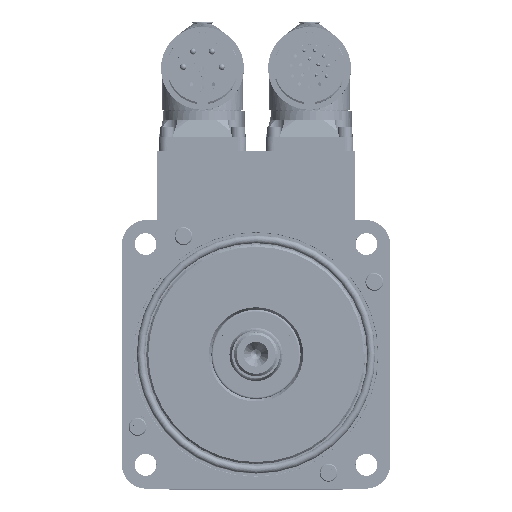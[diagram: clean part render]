
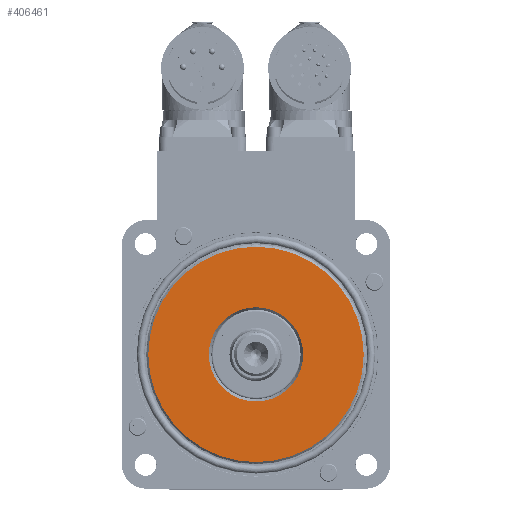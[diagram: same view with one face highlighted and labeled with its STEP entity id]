
A CAD part, top view. The second image highlights one B-rep face of the part: STEP entity #406461.
In plain terms, the highlighted planar face has unit normal (0, 0, 1).
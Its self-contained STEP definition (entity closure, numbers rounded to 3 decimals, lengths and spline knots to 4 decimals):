
#12183 = EDGE_CURVE ( 'NONE', #210011, #492784, #236898, .T. ) ;
#14590 = CIRCLE ( 'NONE', #430425, 0.5943 ) ;
#32473 = CARTESIAN_POINT ( 'NONE',  ( 0., 0., -1.0639 ) ) ;
#44104 = DIRECTION ( 'NONE',  ( 0., 0., 1. ) ) ;
#47099 = EDGE_LOOP ( 'NONE', ( #104765, #143902 ) ) ;
#69857 = VERTEX_POINT ( 'NONE', #259356 ) ;
#85226 = CARTESIAN_POINT ( 'NONE',  ( -1.358, 0., -1.0639 ) ) ;
#104765 = ORIENTED_EDGE ( 'NONE', *, *, #347284, .T. ) ;
#120556 = CARTESIAN_POINT ( 'NONE',  ( -0.5943, 0., -1.0639 ) ) ;
#136250 = AXIS2_PLACEMENT_3D ( 'NONE', #529849, #44104, #283002 ) ;
#143902 = ORIENTED_EDGE ( 'NONE', *, *, #335199, .T. ) ;
#158218 = PLANE ( 'NONE',  #136250 ) ;
#176452 = AXIS2_PLACEMENT_3D ( 'NONE', #444415, #357657, #238281 ) ;
#197933 = DIRECTION ( 'NONE',  ( 0., 0., -1. ) ) ;
#210011 = VERTEX_POINT ( 'NONE', #85226 ) ;
#223500 = EDGE_LOOP ( 'NONE', ( #500280, #357141 ) ) ;
#236898 = CIRCLE ( 'NONE', #176452, 1.358 ) ;
#238281 = DIRECTION ( 'NONE',  ( -1., 0., 0. ) ) ;
#251369 = AXIS2_PLACEMENT_3D ( 'NONE', #32473, #197933, #322628 ) ;
#259356 = CARTESIAN_POINT ( 'NONE',  ( 0.5943, 0., -1.0639 ) ) ;
#283002 = DIRECTION ( 'NONE',  ( 1., 0., 0. ) ) ;
#289127 = VERTEX_POINT ( 'NONE', #120556 ) ;
#313394 = CARTESIAN_POINT ( 'NONE',  ( 0., 0., -1.0639 ) ) ;
#318440 = AXIS2_PLACEMENT_3D ( 'NONE', #313394, #481583, #324076 ) ;
#322628 = DIRECTION ( 'NONE',  ( -1., 0., 0. ) ) ;
#324076 = DIRECTION ( 'NONE',  ( -1., 0., 0. ) ) ;
#335199 = EDGE_CURVE ( 'NONE', #289127, #69857, #363990, .T. ) ;
#347284 = EDGE_CURVE ( 'NONE', #69857, #289127, #14590, .T. ) ;
#357141 = ORIENTED_EDGE ( 'NONE', *, *, #459827, .F. ) ;
#357657 = DIRECTION ( 'NONE',  ( 0., 0., -1. ) ) ;
#363990 = CIRCLE ( 'NONE', #251369, 0.5943 ) ;
#364312 = FACE_BOUND ( 'NONE', #47099, .T. ) ;
#406461 = ADVANCED_FACE ( 'NONE', ( #364312, #489148 ), #158218, .T. ) ;
#430425 = AXIS2_PLACEMENT_3D ( 'NONE', #480318, #431514, #442267 ) ;
#431514 = DIRECTION ( 'NONE',  ( 0., 0., -1. ) ) ;
#442267 = DIRECTION ( 'NONE',  ( -1., 0., 0. ) ) ;
#444415 = CARTESIAN_POINT ( 'NONE',  ( 0., 0., -1.0639 ) ) ;
#459827 = EDGE_CURVE ( 'NONE', #492784, #210011, #465983, .T. ) ;
#465983 = CIRCLE ( 'NONE', #318440, 1.358 ) ;
#480318 = CARTESIAN_POINT ( 'NONE',  ( 0., 0., -1.0639 ) ) ;
#481583 = DIRECTION ( 'NONE',  ( 0., 0., -1. ) ) ;
#489148 = FACE_OUTER_BOUND ( 'NONE', #223500, .T. ) ;
#492059 = CARTESIAN_POINT ( 'NONE',  ( 1.358, 0., -1.0639 ) ) ;
#492784 = VERTEX_POINT ( 'NONE', #492059 ) ;
#500280 = ORIENTED_EDGE ( 'NONE', *, *, #12183, .F. ) ;
#529849 = CARTESIAN_POINT ( 'NONE',  ( 0., 1.358, -1.0639 ) ) ;
